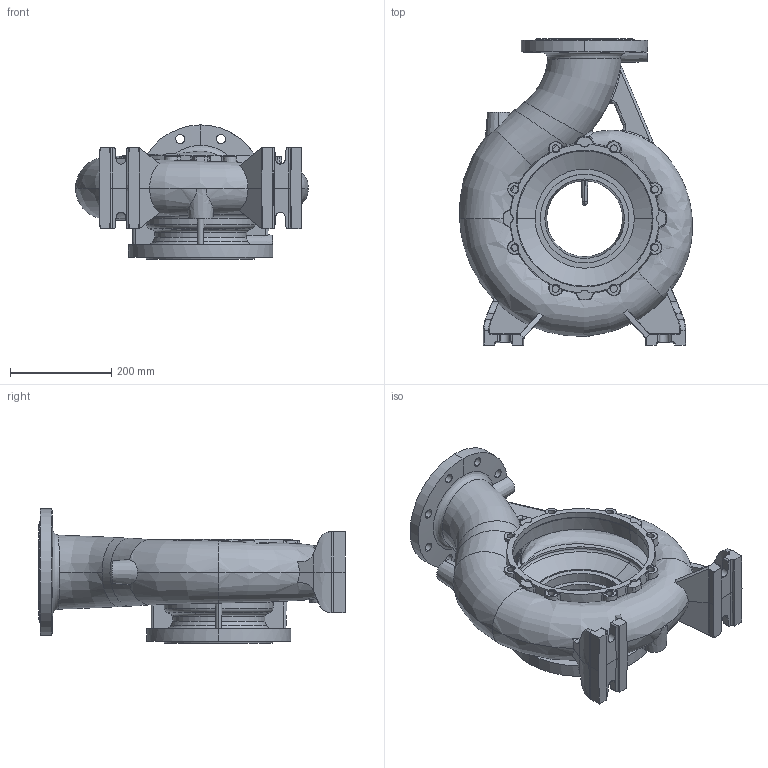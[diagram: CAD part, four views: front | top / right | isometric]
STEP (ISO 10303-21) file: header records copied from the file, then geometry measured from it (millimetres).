
FILE_DESCRIPTION (( 'STEP AP203' ), '1' );
FILE_NAME ('NM 125-250.STEP', '2016-11-11T07:45:21', ( '' ), ( '' ), 'SwSTEP 2.0', 'SolidWorks 2015', '' );
FILE_SCHEMA (( 'CONFIG_CONTROL_DESIGN' ));
Length unit declared in the file: millimetre
Products named in the file (1): NM 125-250
Bounding box: 459.81 x 605 x 265 mm (x, y, z)
Volume: 8358508.1 mm3; surface area: 1246331.2 mm2
Topology: 1 solids, 1 shells, 506 faces, 1385 edges, 887 vertices
Faces by surface type: cone 167, plane 140, cylinder 98, bspline 75, torus 26
Entity records: 35141 total; most frequent: CARTESIAN_POINT 23219, ORIENTED_EDGE 2770, DIRECTION 2120, EDGE_CURVE 1385, VERTEX_POINT 887, AXIS2_PLACEMENT_3D 844, EDGE_LOOP 556, FACE_OUTER_BOUND 506
